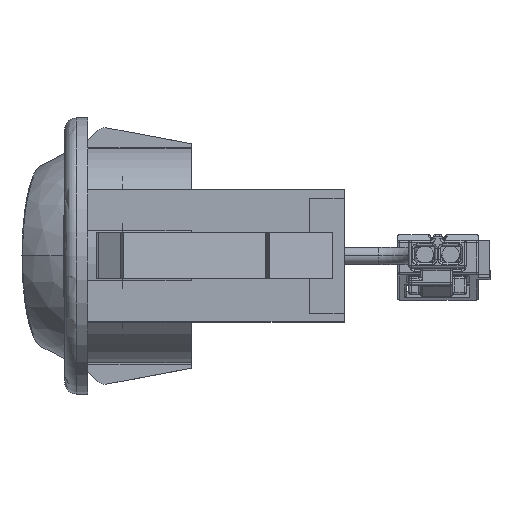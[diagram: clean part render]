
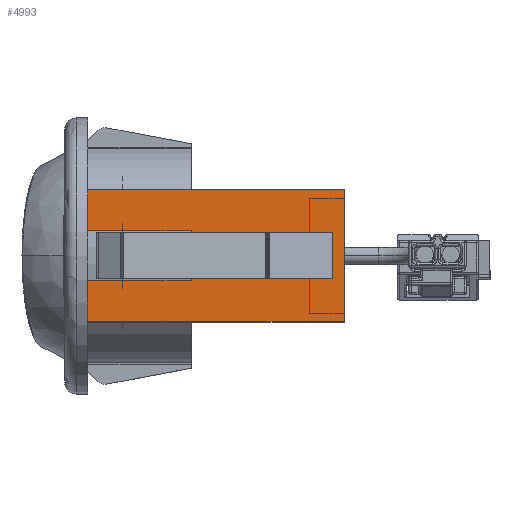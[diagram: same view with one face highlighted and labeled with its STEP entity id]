
A CAD part, top view. The second image highlights one B-rep face of the part: STEP entity #4993.
In plain terms, the highlighted planar face has unit normal (0, 0, 1) as drawn and (0, 1, 0) by its records, which use the part's own axes.
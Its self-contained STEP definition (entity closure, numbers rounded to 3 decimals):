
#121 = LINE ( 'NONE', #6930, #15183 ) ;
#143 = CARTESIAN_POINT ( 'NONE',  ( -2., 9.25, 14.345 ) ) ;
#494 = CARTESIAN_POINT ( 'NONE',  ( -2.165, 9.25, 11. ) ) ;
#515 = CARTESIAN_POINT ( 'NONE',  ( -2., 9.25, 21.511 ) ) ;
#690 = DIRECTION ( 'NONE',  ( 0., 0., 1. ) ) ;
#885 = DIRECTION ( 'NONE',  ( -1., 0., 0. ) ) ;
#948 = ORIENTED_EDGE ( 'NONE', *, *, #15725, .F. ) ;
#1200 = VERTEX_POINT ( 'NONE', #19111 ) ;
#1331 = CARTESIAN_POINT ( 'NONE',  ( 2., 9.25, 17.5 ) ) ;
#1557 = ORIENTED_EDGE ( 'NONE', *, *, #9862, .T. ) ;
#1604 = CARTESIAN_POINT ( 'NONE',  ( -2., 9.25, 23.3 ) ) ;
#2026 = LINE ( 'NONE', #17185, #17044 ) ;
#2089 = VECTOR ( 'NONE', #885, 1000. ) ;
#2297 = EDGE_CURVE ( 'NONE', #21394, #12295, #4129, .T. ) ;
#2442 = VERTEX_POINT ( 'NONE', #15112 ) ;
#2872 = VECTOR ( 'NONE', #20926, 1000. ) ;
#3141 = EDGE_CURVE ( 'NONE', #1200, #2442, #7532, .T. ) ;
#3191 = VERTEX_POINT ( 'NONE', #12736 ) ;
#3333 = DIRECTION ( 'NONE',  ( 1., 0., 0. ) ) ;
#3461 = DIRECTION ( 'NONE',  ( 0., 0., 1. ) ) ;
#3639 = ORIENTED_EDGE ( 'NONE', *, *, #18046, .T. ) ;
#3727 = EDGE_CURVE ( 'NONE', #21214, #11804, #121, .T. ) ;
#3742 = VERTEX_POINT ( 'NONE', #17175 ) ;
#3793 = EDGE_LOOP ( 'NONE', ( #8879, #17078, #15534, #4075 ) ) ;
#3829 = FACE_BOUND ( 'NONE', #5056, .T. ) ;
#3859 = VECTOR ( 'NONE', #6109, 1000. ) ;
#4025 = VERTEX_POINT ( 'NONE', #6771 ) ;
#4075 = ORIENTED_EDGE ( 'NONE', *, *, #19538, .T. ) ;
#4129 = LINE ( 'NONE', #20973, #15688 ) ;
#4680 = CARTESIAN_POINT ( 'NONE',  ( 2., 9.25, 17.5 ) ) ;
#4993 = ADVANCED_FACE ( 'NONE', ( #5504, #6947, #3829 ), #18878, .F. ) ;
#5056 = EDGE_LOOP ( 'NONE', ( #12113, #1557, #12784, #6550 ) ) ;
#5097 = DIRECTION ( 'NONE',  ( 0., 0., 1. ) ) ;
#5107 = EDGE_LOOP ( 'NONE', ( #8315, #5978, #9111, #948, #7615, #20921, #14853, #3639 ) ) ;
#5178 = DIRECTION ( 'NONE',  ( 1., 0., 0. ) ) ;
#5210 = EDGE_CURVE ( 'NONE', #17063, #4025, #8444, .T. ) ;
#5251 = CARTESIAN_POINT ( 'NONE',  ( -2., 9.25, 17.5 ) ) ;
#5504 = FACE_BOUND ( 'NONE', #3793, .T. ) ;
#5978 = ORIENTED_EDGE ( 'NONE', *, *, #8729, .T. ) ;
#6109 = DIRECTION ( 'NONE',  ( -1., 0., 0. ) ) ;
#6114 = LINE ( 'NONE', #11200, #15572 ) ;
#6214 = DIRECTION ( 'NONE',  ( 0., 0., 1. ) ) ;
#6347 = VECTOR ( 'NONE', #3461, 1000. ) ;
#6550 = ORIENTED_EDGE ( 'NONE', *, *, #21326, .F. ) ;
#6771 = CARTESIAN_POINT ( 'NONE',  ( 2.165, 9.25, 11. ) ) ;
#6872 = CARTESIAN_POINT ( 'NONE',  ( 2., 9.25, 14.345 ) ) ;
#6930 = CARTESIAN_POINT ( 'NONE',  ( -2., 9.25, 17.5 ) ) ;
#6947 = FACE_OUTER_BOUND ( 'NONE', #5107, .T. ) ;
#7204 = CARTESIAN_POINT ( 'NONE',  ( -2., 9.25, 21.511 ) ) ;
#7421 = DIRECTION ( 'NONE',  ( 0., 0., -1. ) ) ;
#7532 = LINE ( 'NONE', #11061, #20477 ) ;
#7615 = ORIENTED_EDGE ( 'NONE', *, *, #19497, .F. ) ;
#8315 = ORIENTED_EDGE ( 'NONE', *, *, #5210, .F. ) ;
#8444 = LINE ( 'NONE', #15232, #8698 ) ;
#8698 = VECTOR ( 'NONE', #3333, 1000. ) ;
#8729 = EDGE_CURVE ( 'NONE', #17063, #21394, #15980, .T. ) ;
#8825 = DIRECTION ( 'NONE',  ( 0., -1., 0. ) ) ;
#8832 = VECTOR ( 'NONE', #11439, 1000. ) ;
#8837 = CARTESIAN_POINT ( 'NONE',  ( -2., 9.25, 21.511 ) ) ;
#8879 = ORIENTED_EDGE ( 'NONE', *, *, #3727, .F. ) ;
#8969 = LINE ( 'NONE', #515, #2872 ) ;
#9068 = EDGE_CURVE ( 'NONE', #3742, #20115, #13273, .T. ) ;
#9111 = ORIENTED_EDGE ( 'NONE', *, *, #2297, .T. ) ;
#9348 = LINE ( 'NONE', #17942, #2089 ) ;
#9429 = VERTEX_POINT ( 'NONE', #18394 ) ;
#9471 = DIRECTION ( 'NONE',  ( 0., 0., -1. ) ) ;
#9862 = EDGE_CURVE ( 'NONE', #18375, #3191, #8969, .T. ) ;
#10183 = LINE ( 'NONE', #7204, #21653 ) ;
#10382 = CARTESIAN_POINT ( 'NONE',  ( -5.75, 9.25, 24.3 ) ) ;
#10604 = CARTESIAN_POINT ( 'NONE',  ( -2.165, 9.25, 2. ) ) ;
#10715 = AXIS2_PLACEMENT_3D ( 'NONE', #10382, #8825, #19089 ) ;
#11061 = CARTESIAN_POINT ( 'NONE',  ( 5.75, 9.25, 24.3 ) ) ;
#11193 = LINE ( 'NONE', #18018, #3859 ) ;
#11200 = CARTESIAN_POINT ( 'NONE',  ( 2., 9.25, 21.511 ) ) ;
#11219 = LINE ( 'NONE', #1331, #8832 ) ;
#11439 = DIRECTION ( 'NONE',  ( 0., 0., 1. ) ) ;
#11804 = VERTEX_POINT ( 'NONE', #4680 ) ;
#12036 = DIRECTION ( 'NONE',  ( 1., 0., 0. ) ) ;
#12113 = ORIENTED_EDGE ( 'NONE', *, *, #16194, .F. ) ;
#12295 = VERTEX_POINT ( 'NONE', #19499 ) ;
#12645 = CARTESIAN_POINT ( 'NONE',  ( -2., 9.25, 23.3 ) ) ;
#12736 = CARTESIAN_POINT ( 'NONE',  ( 2., 9.25, 21.511 ) ) ;
#12784 = ORIENTED_EDGE ( 'NONE', *, *, #13313, .T. ) ;
#13273 = LINE ( 'NONE', #143, #17277 ) ;
#13313 = EDGE_CURVE ( 'NONE', #3191, #9429, #6114, .T. ) ;
#13805 = LINE ( 'NONE', #5251, #6347 ) ;
#14652 = VERTEX_POINT ( 'NONE', #17390 ) ;
#14695 = LINE ( 'NONE', #19641, #14831 ) ;
#14770 = EDGE_CURVE ( 'NONE', #3742, #21214, #13805, .T. ) ;
#14831 = VECTOR ( 'NONE', #9471, 1000. ) ;
#14853 = ORIENTED_EDGE ( 'NONE', *, *, #19238, .T. ) ;
#15112 = CARTESIAN_POINT ( 'NONE',  ( 5.75, 9.25, 2. ) ) ;
#15183 = VECTOR ( 'NONE', #12036, 1000. ) ;
#15232 = CARTESIAN_POINT ( 'NONE',  ( 0., 9.25, 11. ) ) ;
#15293 = LINE ( 'NONE', #1604, #16131 ) ;
#15534 = ORIENTED_EDGE ( 'NONE', *, *, #9068, .T. ) ;
#15572 = VECTOR ( 'NONE', #6214, 1000. ) ;
#15688 = VECTOR ( 'NONE', #21178, 1000. ) ;
#15725 = EDGE_CURVE ( 'NONE', #18689, #12295, #14695, .T. ) ;
#15813 = CARTESIAN_POINT ( 'NONE',  ( -5.75, 9.25, 24.3 ) ) ;
#15854 = CARTESIAN_POINT ( 'NONE',  ( -2.165, 9.25, 11. ) ) ;
#15980 = LINE ( 'NONE', #15854, #21527 ) ;
#16131 = VECTOR ( 'NONE', #5178, 1000. ) ;
#16194 = EDGE_CURVE ( 'NONE', #18375, #20805, #10183, .T. ) ;
#17044 = VECTOR ( 'NONE', #690, 1000. ) ;
#17063 = VERTEX_POINT ( 'NONE', #494 ) ;
#17078 = ORIENTED_EDGE ( 'NONE', *, *, #14770, .F. ) ;
#17175 = CARTESIAN_POINT ( 'NONE',  ( -2., 9.25, 14.345 ) ) ;
#17185 = CARTESIAN_POINT ( 'NONE',  ( 2.165, 9.25, 11. ) ) ;
#17277 = VECTOR ( 'NONE', #18762, 1000. ) ;
#17390 = CARTESIAN_POINT ( 'NONE',  ( 2.165, 9.25, 2. ) ) ;
#17942 = CARTESIAN_POINT ( 'NONE',  ( -5.75, 9.25, 24.3 ) ) ;
#18018 = CARTESIAN_POINT ( 'NONE',  ( -5.75, 9.25, 2. ) ) ;
#18046 = EDGE_CURVE ( 'NONE', #14652, #4025, #2026, .T. ) ;
#18375 = VERTEX_POINT ( 'NONE', #8837 ) ;
#18394 = CARTESIAN_POINT ( 'NONE',  ( 2., 9.25, 23.3 ) ) ;
#18689 = VERTEX_POINT ( 'NONE', #15813 ) ;
#18762 = DIRECTION ( 'NONE',  ( 1., 0., 0. ) ) ;
#18878 = PLANE ( 'NONE',  #10715 ) ;
#19089 = DIRECTION ( 'NONE',  ( 0., 0., -1. ) ) ;
#19111 = CARTESIAN_POINT ( 'NONE',  ( 5.75, 9.25, 24.3 ) ) ;
#19238 = EDGE_CURVE ( 'NONE', #2442, #14652, #11193, .T. ) ;
#19497 = EDGE_CURVE ( 'NONE', #1200, #18689, #9348, .T. ) ;
#19499 = CARTESIAN_POINT ( 'NONE',  ( -5.75, 9.25, 2. ) ) ;
#19538 = EDGE_CURVE ( 'NONE', #20115, #11804, #11219, .T. ) ;
#19641 = CARTESIAN_POINT ( 'NONE',  ( -5.75, 9.25, 24.3 ) ) ;
#20115 = VERTEX_POINT ( 'NONE', #6872 ) ;
#20477 = VECTOR ( 'NONE', #21347, 1000. ) ;
#20805 = VERTEX_POINT ( 'NONE', #12645 ) ;
#20921 = ORIENTED_EDGE ( 'NONE', *, *, #3141, .T. ) ;
#20926 = DIRECTION ( 'NONE',  ( 1., 0., 0. ) ) ;
#20973 = CARTESIAN_POINT ( 'NONE',  ( -5.75, 9.25, 2. ) ) ;
#21178 = DIRECTION ( 'NONE',  ( -1., 0., 0. ) ) ;
#21214 = VERTEX_POINT ( 'NONE', #21449 ) ;
#21326 = EDGE_CURVE ( 'NONE', #20805, #9429, #15293, .T. ) ;
#21347 = DIRECTION ( 'NONE',  ( 0., 0., -1. ) ) ;
#21394 = VERTEX_POINT ( 'NONE', #10604 ) ;
#21449 = CARTESIAN_POINT ( 'NONE',  ( -2., 9.25, 17.5 ) ) ;
#21527 = VECTOR ( 'NONE', #7421, 1000. ) ;
#21653 = VECTOR ( 'NONE', #5097, 1000. ) ;
